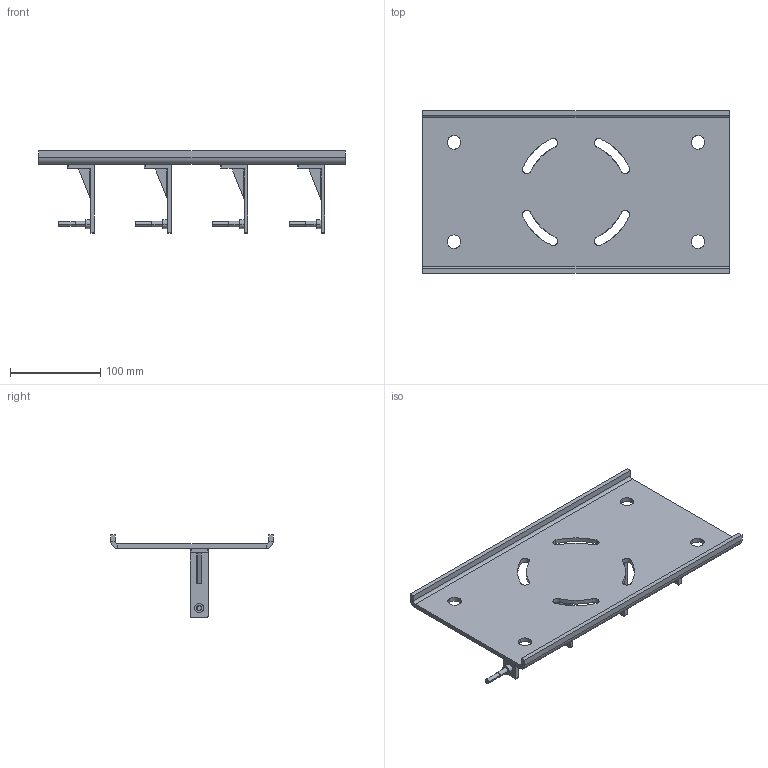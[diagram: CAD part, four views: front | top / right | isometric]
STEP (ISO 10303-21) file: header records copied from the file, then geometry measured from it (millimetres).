
FILE_DESCRIPTION(('CATIA V5 STEP Exchange'),'2;1');
FILE_NAME('C:\Users\Administrator\Desktop\GZ31.20_V1.stp','2021-06-05T03:41:33+00:00',('none'),('none'),'CATIA Version 5 Release 20 GA (IN-10)','CATIA V5 STEP AP214','none');
FILE_SCHEMA(('AUTOMOTIVE_DESIGN { 1 0 10303 214 1 1 1 1 }'));
Length unit declared in the file: millimetre
Products named in the file (6): product1; 1; 100; 10; 3; Part365
Assembly tree (8 placements, depth 4):
  product1
    1
    100  x4
      10
        3
        Part365
Bounding box: 340 x 180 x 91 mm (x, y, z)
Volume: 359592.1 mm3; surface area: 161477.6 mm2
Topology: 9 solids, 9 shells, 214 faces, 512 edges, 320 vertices
Faces by surface type: cylinder 116, plane 82, sphere 8, cone 8
Entity records: 3062 total; most frequent: CARTESIAN_POINT 755, ORIENTED_EDGE 462, DIRECTION 403, EDGE_CURVE 231, AXIS2_PLACEMENT_3D 182, VERTEX_POINT 146, VECTOR 117, LINE 117
